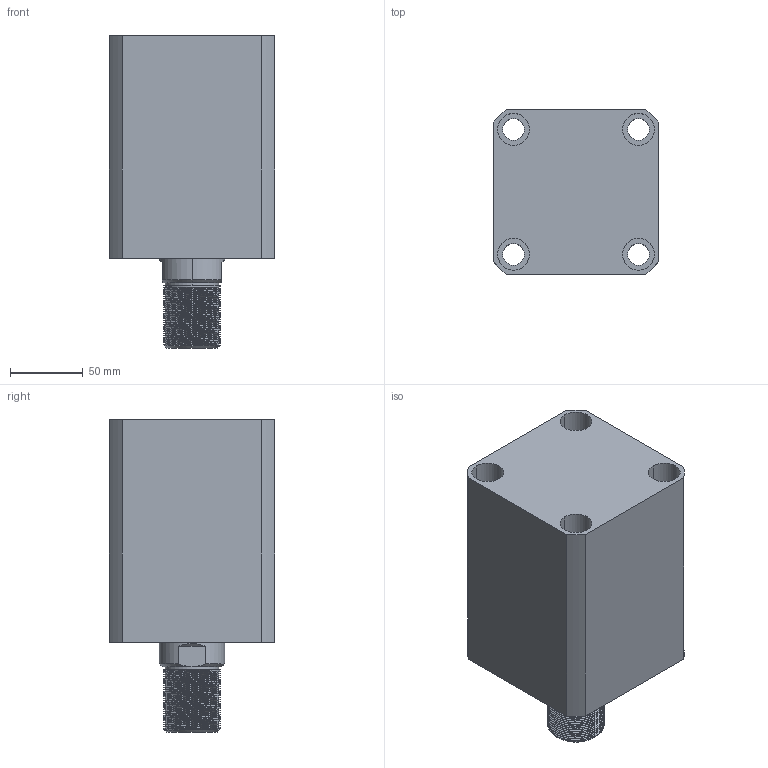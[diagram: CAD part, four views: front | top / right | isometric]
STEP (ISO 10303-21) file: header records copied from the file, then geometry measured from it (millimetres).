
FILE_DESCRIPTION (( 'STEP AP214' ), '1' );
FILE_NAME ('chtb-sdma80x75wasm.STEP', '2018-05-29T03:21:43', ( 'Windows' ), ( 'Microsoft' ), 'SwSTEP 2.0', 'SolidWorks 2015', '' );
FILE_SCHEMA (( 'AUTOMOTIVE_DESIGN' ));
Length unit declared in the file: millimetre
Products named in the file (4): CHTB-SDMA80X75NBT; CHTB-SD80X75WHSG; CHTB-SD80QG; chtb-sdma80x75wasm
Assembly tree (3 placements, depth 2):
  chtb-sdma80x75wasm
    CHTB-SD80QG
    CHTB-SD80X75WHSG
    CHTB-SDMA80X75NBT
Bounding box: 114 x 114 x 215 mm (x, y, z)
Volume: 1631633 mm3; surface area: 234104.6 mm2
Topology: 3 solids, 3 shells, 251 faces, 695 edges, 466 vertices
Faces by surface type: cylinder 163, plane 38, torus 18, bspline 16, cone 16
Entity records: 20277 total; most frequent: CARTESIAN_POINT 14301, ORIENTED_EDGE 1382, DIRECTION 1068, EDGE_CURVE 691, VERTEX_POINT 466, AXIS2_PLACEMENT_3D 433, EDGE_LOOP 289, FACE_OUTER_BOUND 251
